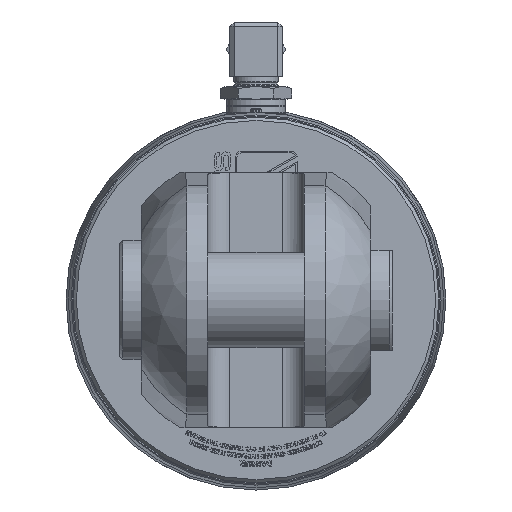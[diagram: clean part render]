
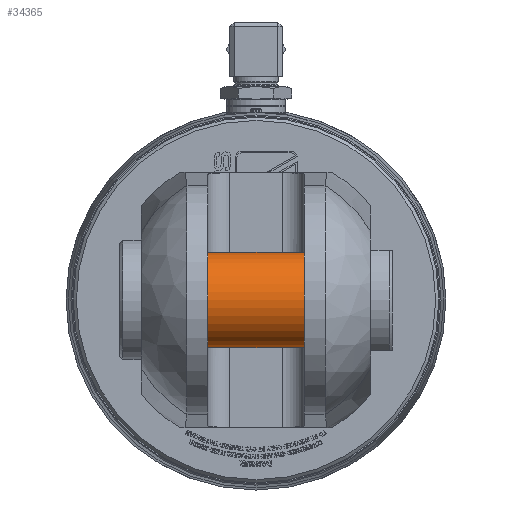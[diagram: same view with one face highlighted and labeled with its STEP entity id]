
A CAD part, left-side view. The second image highlights one B-rep face of the part: STEP entity #34365.
In plain terms, the highlighted cylindrical face has radius 22.225 mm (diameter 44.45 mm), a full revolution.
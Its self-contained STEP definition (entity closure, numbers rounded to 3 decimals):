
#4912=LINE('',#63013,#7884);
#7884=VECTOR('',#41860,22.225);
#8103=CYLINDRICAL_SURFACE('',#35954,22.225);
#11545=FACE_OUTER_BOUND('',#13486,.T.);
#13486=EDGE_LOOP('',(#30970,#30971,#30972,#30973,#30974,#30975));
#13986=CIRCLE('',#35955,22.225);
#13987=CIRCLE('',#35956,22.225);
#13988=CIRCLE('',#35957,22.225);
#13989=CIRCLE('',#35958,22.225);
#17077=VERTEX_POINT('',#63009);
#17078=VERTEX_POINT('',#63010);
#17079=VERTEX_POINT('',#63012);
#17080=VERTEX_POINT('',#63014);
#21755=EDGE_CURVE('',#17077,#17078,#13986,.T.);
#21756=EDGE_CURVE('',#17078,#17079,#4912,.T.);
#21757=EDGE_CURVE('',#17079,#17080,#13987,.T.);
#21758=EDGE_CURVE('',#17080,#17079,#13988,.T.);
#21759=EDGE_CURVE('',#17078,#17077,#13989,.T.);
#30970=ORIENTED_EDGE('',*,*,#21755,.T.);
#30971=ORIENTED_EDGE('',*,*,#21756,.T.);
#30972=ORIENTED_EDGE('',*,*,#21757,.T.);
#30973=ORIENTED_EDGE('',*,*,#21758,.T.);
#30974=ORIENTED_EDGE('',*,*,#21756,.F.);
#30975=ORIENTED_EDGE('',*,*,#21759,.T.);
#34365=ADVANCED_FACE('',(#11545),#8103,.T.);
#35954=AXIS2_PLACEMENT_3D('',#63008,#41856,#41857);
#35955=AXIS2_PLACEMENT_3D('',#63011,#41858,#41859);
#35956=AXIS2_PLACEMENT_3D('',#63015,#41861,#41862);
#35957=AXIS2_PLACEMENT_3D('',#63016,#41863,#41864);
#35958=AXIS2_PLACEMENT_3D('',#63017,#41865,#41866);
#41856=DIRECTION('center_axis',(0.,-1.,0.));
#41857=DIRECTION('ref_axis',(0.,0.,
1.));
#41858=DIRECTION('center_axis',(0.,1.,0.));
#41859=DIRECTION('ref_axis',(0.,0.,
1.));
#41860=DIRECTION('',(0.,1.,0.));
#41861=DIRECTION('center_axis',(0.,-1.,0.));
#41862=DIRECTION('ref_axis',(0.,0.,
1.));
#41863=DIRECTION('center_axis',(0.,-1.,0.));
#41864=DIRECTION('ref_axis',(0.,0.,
1.));
#41865=DIRECTION('center_axis',(0.,1.,0.));
#41866=DIRECTION('ref_axis',(0.,0.,
1.));
#63008=CARTESIAN_POINT('Origin',(-1409.27,0.,0.));
#63009=CARTESIAN_POINT('',(-1387.045,-22.325,0.));
#63010=CARTESIAN_POINT('',(-1409.27,-22.325,-22.225));
#63011=CARTESIAN_POINT('Origin',(-1409.27,-22.325,0.));
#63012=CARTESIAN_POINT('',(-1409.27,22.325,-22.225));
#63013=CARTESIAN_POINT('',(-1409.27,0.,-22.225));
#63014=CARTESIAN_POINT('',(-1387.045,22.325,0.));
#63015=CARTESIAN_POINT('Origin',(-1409.27,22.325,0.));
#63016=CARTESIAN_POINT('Origin',(-1409.27,22.325,0.));
#63017=CARTESIAN_POINT('Origin',(-1409.27,-22.325,0.));
